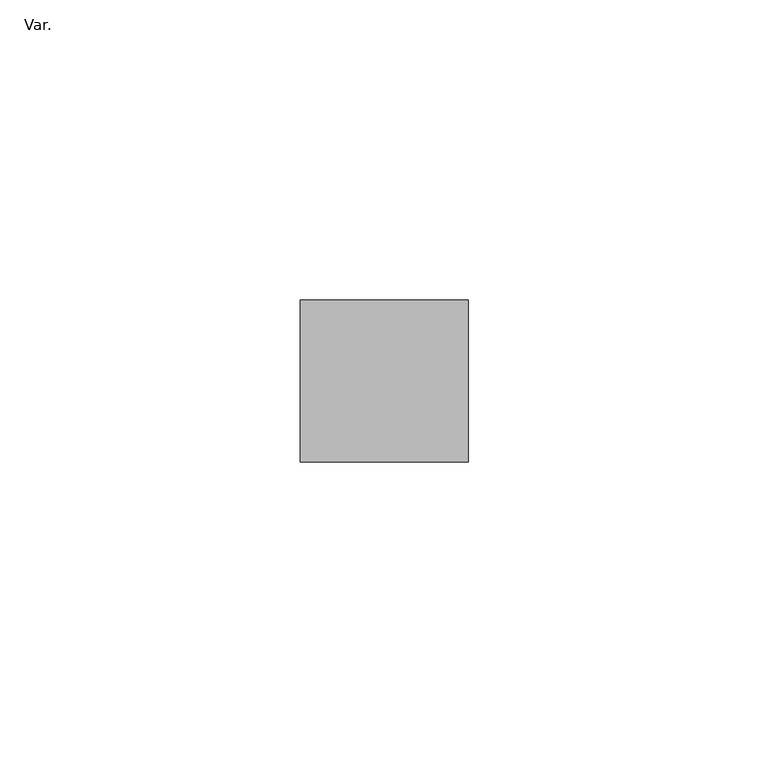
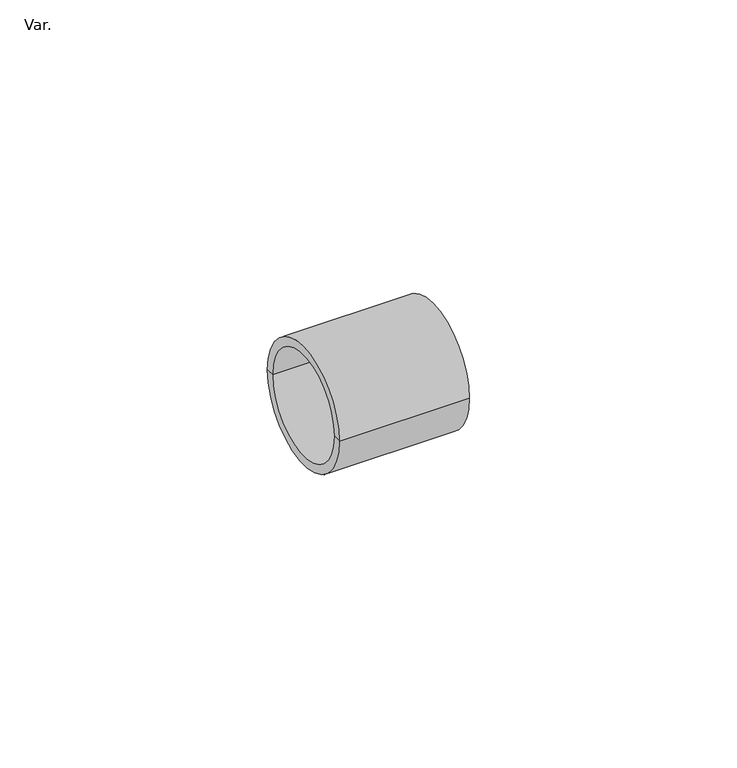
"""IFC4 building model written with IfcOpenShell, lengths in millimetres: pipe fitting geometry, Z_Wavin Tigris K1 Manifold Female Cap (nested) : Var.."""

import ifcopenshell
import ifcopenshell.guid

model = None  # the IFC model being written
_history = None  # IfcOwnerHistory: only IFC2X3 demands one
_inside = {}  # id of a spatial element -> (the spatial element, [elements in it])
_under = {}  # id of a project, library or spatial element -> (it, [spatial elements below it])
_declared = {}  # id of a project -> (the project, [libraries it declares])
_typed = {}  # id of a type object -> (the type object, [elements of that type])
_made_of = {}  # id of a material, layer set ... -> (it, [elements and type objects made of it])


def new_model(schema):
    """Start an empty IFC model of exactly this schema.

    Asked for "IFC4X3", IfcOpenShell would pick the latest addendum, in which some entities
    have other attributes; the version numbers below select the first issue.
    IFC2X3 requires an IfcOwnerHistory on every rooted entity: one is made here for all.
    """
    global model, _history
    if schema == "IFC4X3":
        model = ifcopenshell.file(schema_version=(4, 3, 0, 0))
    else:
        model = ifcopenshell.file(schema=schema)
    _inside.clear()
    _under.clear()
    _declared.clear()
    _typed.clear()
    _made_of.clear()
    _history = None
    if model.schema == "IFC2X3":
        org = make("IfcOrganization", Name="unknown")
        user = make(
            "IfcPersonAndOrganization",
            ThePerson=make("IfcPerson", FamilyName="unknown"),
            TheOrganization=org,
        )
        app = make(
            "IfcApplication",
            ApplicationDeveloper=org,
            Version="unknown",
            ApplicationFullName="unknown",
            ApplicationIdentifier="unknown",
        )
        _history = make(
            "IfcOwnerHistory",
            OwningUser=user,
            OwningApplication=app,
            ChangeAction="ADDED",
            CreationDate=0,
        )
    return model


def make(cls, **values):
    """One entity of the class cls with the attributes given. An attribute that is None is left unset."""
    return model.create_entity(
        cls, **{name: value for name, value in values.items() if value is not None}
    )


def rooted(cls, **values):
    """An entity with a GlobalId (a new one), such as an element, a storey or a relation."""
    return make(cls, GlobalId=ifcopenshell.guid.new(), OwnerHistory=_history, **values)


def si_unit(unit_type, name, prefix=None):
    """IfcSIUnit, for example si_unit("LENGTHUNIT", "METRE", prefix="MILLI")."""
    return make("IfcSIUnit", UnitType=unit_type, Prefix=prefix, Name=name)


def assignment(units):
    """IfcUnitAssignment: the units of a project."""
    return None if units is None else make("IfcUnitAssignment", Units=units)


def point(xyz):
    """IfcCartesianPoint."""
    return None if xyz is None else make("IfcCartesianPoint", Coordinates=xyz)


def direction(xyz):
    """IfcDirection."""
    return None if xyz is None else make("IfcDirection", DirectionRatios=xyz)


def frame(location, z_axis=None, x_axis=None):
    """IfcAxis2Placement3D, a coordinate frame: its origin and axes. An axis left out is left unset."""
    return make(
        "IfcAxis2Placement3D",
        Location=point(location),
        Axis=direction(z_axis),
        RefDirection=direction(x_axis),
    )


def origin():
    """The frame at (0, 0, 0) with its axes left unset."""
    return frame((0.0, 0.0, 0.0))


def place(relative_to, where):
    """IfcLocalPlacement: puts the frame where relative to a parent placement (None: the world)."""
    return make(
        "IfcLocalPlacement", PlacementRelTo=relative_to, RelativePlacement=where
    )


def context(
    kind, dimensions, precision=None, world=None, true_north=None, identifier=None
):
    """IfcGeometricRepresentationContext, for example the 3D "Model" context."""
    return make(
        "IfcGeometricRepresentationContext",
        ContextIdentifier=identifier,
        ContextType=kind,
        CoordinateSpaceDimension=dimensions,
        Precision=precision,
        WorldCoordinateSystem=world,
        TrueNorth=true_north,
    )


def project(units=None, contexts=None):
    """IfcProject with its units and contexts."""
    return rooted(
        "IfcProject",
        Name="project",
        RepresentationContexts=contexts,
        UnitsInContext=assignment(units),
    )


def spatial(cls, under=None, at=None, **own):
    """A site, building, storey or space (cls), placed at a placement, below another one or the project."""
    s = rooted(cls, ObjectPlacement=at, **own)
    if under is not None:
        _under.setdefault(under.id(), (under, []))[1].append(s)
    return s


def polyline(points):
    """IfcPolyline through the points."""
    return make("IfcPolyline", Points=[point(p) for p in points])


def circle_curve(where, radius):
    """IfcCircle in the frame where."""
    return make("IfcCircle", Position=where, Radius=radius)


def shape(context_of_items, identifier, shape_type, items):
    """IfcShapeRepresentation: the items that make up one representation, for example the "Body"."""
    return make(
        "IfcShapeRepresentation",
        ContextOfItems=context_of_items,
        RepresentationIdentifier=identifier,
        RepresentationType=shape_type,
        Items=items,
    )


def source(mapping_origin, context_of_items, identifier, shape_type, items):
    """IfcRepresentationMap: a shape defined once, which mapped items show again and again."""
    return make(
        "IfcRepresentationMap",
        MappingOrigin=mapping_origin,
        MappedRepresentation=shape(context_of_items, identifier, shape_type, items),
    )


def transform(
    local_origin,
    x_axis=None,
    y_axis=None,
    z_axis=None,
    scale=None,
    scale2=None,
    scale3=None,
    uniform=True,
):
    """IfcCartesianTransformationOperator3D, or its non-uniform kind. x_axis, y_axis, z_axis: its Axis1, 2, 3."""
    if uniform:
        return make(
            "IfcCartesianTransformationOperator3D",
            Axis1=direction(x_axis),
            Axis2=direction(y_axis),
            LocalOrigin=point(local_origin),
            Scale=scale,
            Axis3=direction(z_axis),
        )
    return make(
        "IfcCartesianTransformationOperator3DnonUniform",
        Axis1=direction(x_axis),
        Axis2=direction(y_axis),
        LocalOrigin=point(local_origin),
        Scale=scale,
        Axis3=direction(z_axis),
        Scale2=scale2,
        Scale3=scale3,
    )


def mapped(mapping_source, mapping_target):
    """IfcMappedItem: shows the shape of a source again, moved by a transform."""
    return make(
        "IfcMappedItem", MappingSource=mapping_source, MappingTarget=mapping_target
    )


def made_of(thing, what):
    """Note that an element or type object is made of a material, layer set ...; save() writes the relation."""
    if what is not None:
        _made_of.setdefault(what.id(), (what, []))[1].append(thing)
    return thing


def element(
    cls,
    number,
    at=None,
    inside=None,
    cuts=None,
    type_object=None,
    material=None,
    context=None,
    identifier="Body",
    shape_type=None,
    held_by="IfcProductDefinitionShape",
    body=None,
    shapes=None,
    **own,
):
    """One element of the class cls, such as IfcWall. Its Tag is "e" and its number.

    at: its placement. inside: the storey or other place that contains it. cuts: it is an
    opening in that element (IfcRelVoidsElement). A single representation is given by context,
    identifier, shape_type and body (its items); several are given by shapes. held_by: the class
    of the entity that holds the representations. save() writes the other relations.
    """
    e = rooted(cls, Tag="e%d" % number, ObjectPlacement=at, **own)
    if body is not None:
        shapes = [shape(context, identifier, shape_type, body)]
    if shapes is not None:
        e.Representation = make(held_by, Representations=shapes)
    if inside is not None:
        _inside.setdefault(inside.id(), (inside, []))[1].append(e)
    if cuts is not None:
        rooted(
            "IfcRelVoidsElement", RelatingBuildingElement=cuts, RelatedOpeningElement=e
        )
    if type_object is not None:
        _typed.setdefault(type_object.id(), (type_object, []))[1].append(e)
    return made_of(e, material)


def aggregate(whole, parts):
    """IfcRelAggregates: a whole, such as a stair, and the parts it consists of."""
    return rooted("IfcRelAggregates", RelatingObject=whole, RelatedObjects=parts)


def save(model, path):
    """Write the relations noted so far, then the file.

    IfcRelAggregates (storeys below a building ...), IfcRelContainedInSpatialStructure (elements
    in a storey), IfcRelDefinesByType, IfcRelAssociatesMaterial and IfcRelDeclares: one each for
    every whole, place, type object, material and project.
    """
    for whole, parts in _under.values():
        aggregate(whole, parts)
    for where, things in _inside.values():
        rooted(
            "IfcRelContainedInSpatialStructure",
            RelatedElements=things,
            RelatingStructure=where,
        )
    for kind, things in _typed.values():
        rooted("IfcRelDefinesByType", RelatedObjects=things, RelatingType=kind)
    for what, things in _made_of.values():
        rooted("IfcRelAssociatesMaterial", RelatedObjects=things, RelatingMaterial=what)
    for by, libraries in _declared.values():
        rooted("IfcRelDeclares", RelatingContext=by, RelatedDefinitions=libraries)
    model.write(path)


def plane_surface(at):
    """IfcPlane: the flat surface through the origin of the frame at, square to its z axis."""
    return make("IfcPlane", Position=at)


def cylinder_surface(at, radius):
    """IfcCylindricalSurface: all points at the distance radius from the z axis of the frame at."""
    return make("IfcCylindricalSurface", Position=at, Radius=radius)


def revolved_surface(curve, axis_point, axis_direction):
    """IfcSurfaceOfRevolution: the curve turned about the line through axis_point along axis_direction."""
    return make(
        "IfcSurfaceOfRevolution",
        SweptCurve=make("IfcArbitraryOpenProfileDef", ProfileType="CURVE", Curve=curve),
        AxisPosition=make("IfcAxis1Placement", Location=point(axis_point), Axis=direction(axis_direction)),
    )


def advanced_brep(points, edges, surfaces, faces):
    """IfcAdvancedBrep: a solid bounded by faces that lie on surfaces and meet in shared edges.

    An edge is (start, end): straight between two places in points (the first is 0);
    or (start, end, curve); or (start, end, curve, False) where it runs against its curve.
    A face is (place in surfaces, loops), or (place, loops, False) where it looks against
    its surface's normal. A loop lists edges by number (the first is 1), with a minus sign
    where the edge is run from its end to its start. The first loop is the outer one.
    """
    corners = [point(p) for p in points]
    vertices = [make("IfcVertexPoint", VertexGeometry=c) for c in corners]
    made = []
    for start, end, *more in edges:
        made.append(
            make(
                "IfcEdgeCurve",
                EdgeStart=vertices[start],
                EdgeEnd=vertices[end],
                EdgeGeometry=more[0] if more else make("IfcPolyline", Points=[corners[start], corners[end]]),
                SameSense=more[1] if len(more) > 1 else True,
            )
        )
    hull = []
    for where, loops, *sense in faces:
        bounds = []
        for j, loop in enumerate(loops):
            ring = [make("IfcOrientedEdge", EdgeElement=made[abs(k) - 1], Orientation=k > 0) for k in loop]
            bounds.append(
                make(
                    "IfcFaceOuterBound" if j == 0 else "IfcFaceBound",
                    Bound=make("IfcEdgeLoop", EdgeList=ring),
                    Orientation=True,
                )
            )
        hull.append(make("IfcAdvancedFace", Bounds=bounds, FaceSurface=surfaces[where], SameSense=sense[0] if sense else True))
    return make("IfcAdvancedBrep", Outer=make("IfcClosedShell", CfsFaces=hull))


def var_25c4f382(model_context):
    return source(origin(), model_context, "Body", "AdvancedBrep", [
        advanced_brep(
        [(7.5, -13.5, 0.0), (7.5, 13.5, 0.0), (7.5, 0.0, 0.0), (-20.5, -13.5, 0.0), (-20.5, 13.5, 0.0), (-20.5, -11.6, 0.0), (-20.5, 11.6, 0.0), (0.0, -11.6, 0.0), (0.0, 11.6, 0.0), (0.0, 0.0, 0.0)],
        [
            (0, 1, circle_curve(frame((7.5, 0.0, 0.0), z_axis=(1.0, 0.0, 0.0), x_axis=(0.0, 1.0, 0.0)), 13.5)),
            (1, 2),
            (2, 0),
            (1, 0, circle_curve(frame((7.5, 0.0, 0.0), z_axis=(1.0, 0.0, 0.0), x_axis=(0.0, 1.0, 0.0)), 13.5)),
            (3, 4, circle_curve(frame((-20.5, 0.0, 0.0), z_axis=(1.0, 0.0, 0.0), x_axis=(0.0, 1.0, 0.0)), 13.5)),
            (4, 1),
            (0, 3),
            (4, 3, circle_curve(frame((-20.5, 0.0, 0.0), z_axis=(1.0, 0.0, 0.0), x_axis=(0.0, 1.0, 0.0)), 13.5)),
            (5, 6, circle_curve(frame((-20.5, 0.0, 0.0), z_axis=(1.0, 0.0, 0.0), x_axis=(0.0, 1.0, 0.0)), 11.6)),
            (6, 4),
            (3, 5),
            (6, 5, circle_curve(frame((-20.5, 0.0, 0.0), z_axis=(1.0, 0.0, 0.0), x_axis=(0.0, 1.0, 0.0)), 11.6)),
            (7, 8, circle_curve(frame((0.0, 0.0, 0.0), z_axis=(1.0, 0.0, 0.0), x_axis=(0.0, 1.0, 0.0)), 11.6)),
            (8, 6),
            (5, 7),
            (8, 7, circle_curve(frame((0.0, 0.0, 0.0), z_axis=(1.0, 0.0, 0.0), x_axis=(0.0, 1.0, 0.0)), 11.6)),
            (9, 8),
            (7, 9),
        ],
        [
            plane_surface(frame((7.5, 0.0, 0.0), z_axis=(1.0, 0.0, 0.0), x_axis=(0.0, 1.0, 0.0))),
            cylinder_surface(frame((-312.0, 0.0, 0.0), z_axis=(-1.0, 0.0, 0.0), x_axis=(0.0, 1.0, 0.0)), 13.5),
            plane_surface(frame((-20.5, 0.0, 0.0), z_axis=(-1.0, 0.0, 0.0), x_axis=(0.0, 1.0, 0.0))),
            revolved_surface(polyline([(-20.5, 11.6, 0.0), (0.0, 11.6, 0.0)]), (-312.0, 0.0, 0.0), (-1.0, 0.0, 0.0)),
            plane_surface(frame((0.0, 0.0, 0.0), z_axis=(-1.0, 0.0, 0.0), x_axis=(0.0, 1.0, 0.0))),
        ],
        [
            (0, [[1, 2, 3]]),
            (0, [[4, -3, -2]]),
            (1, [[5, 6, -1, 7]]),
            (1, [[8, -7, -4, -6]]),
            (2, [[9, 10, -5, 11]]),
            (2, [[12, -11, -8, -10]]),
            (3, [[13, 14, -9, 15]]),
            (3, [[16, -15, -12, -14]]),
            (4, [[17, -13, 18]]),
            (4, [[-18, -16, -17]]),
        ],
    ),
    ])


if __name__ == "__main__":
    model = new_model("IFC4")
    model_context = context("Model", 3, world=origin())
    ifc_project = project(units=[si_unit("LENGTHUNIT", "METRE", prefix="MILLI")], contexts=[model_context])
    site = spatial("IfcSite", under=ifc_project)
    building = spatial("IfcBuilding", under=site)
    placement = place(None, origin())
    var_shape = var_25c4f382(model_context)
    element("IfcPipeFitting", 1, ObjectType="Z_Wavin Tigris K1 Manifold Female Cap (nested) : Var.", at=placement, inside=building, context=model_context, shape_type="MappedRepresentation", body=[
        mapped(var_shape, transform((0.0, 0.0, 0.0), x_axis=(1.0, 0.0, 0.0), y_axis=(0.0, 1.0, 0.0), z_axis=(0.0, 0.0, 1.0))),
    ])
    save(model, "model.ifc")
